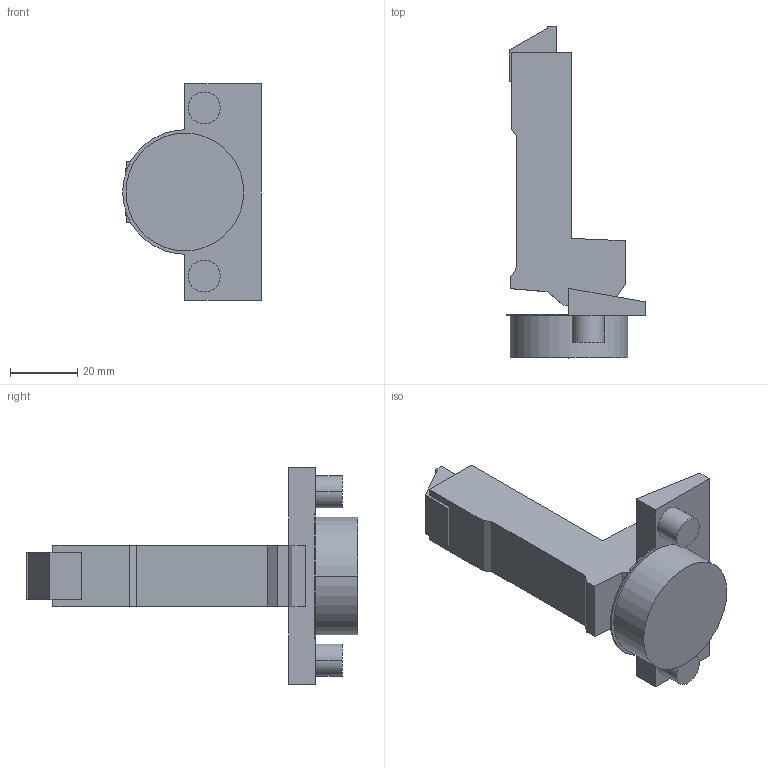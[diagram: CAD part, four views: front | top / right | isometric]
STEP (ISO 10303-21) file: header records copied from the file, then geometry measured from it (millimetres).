
FILE_DESCRIPTION (( 'STEP AP214' ), '1' );
FILE_NAME ('Scharnier TT Impresso 120° HS_BB, K19.step', '2010-12-06T09:57:57', ( 'grass' ), ( '' ), 'SwSTEP 2.0', 'SolidWorks 2010', '' );
FILE_SCHEMA (( 'AUTOMOTIVE_DESIGN' ));
Length unit declared in the file: millimetre
Products named in the file (1): Scharnier TT Impresso 120° HS_BB, K19
Bounding box: 41.25 x 98.7 x 64.5 mm (x, y, z)
Volume: 49895 mm3; surface area: 13639.6 mm2
Topology: 1 solids, 3 shells, 61 faces, 147 edges, 98 vertices
Faces by surface type: plane 43, cylinder 18
Entity records: 1807 total; most frequent: CARTESIAN_POINT 307, DIRECTION 307, ORIENTED_EDGE 294, EDGE_CURVE 147, VECTOR 111, LINE 111, VERTEX_POINT 98, AXIS2_PLACEMENT_3D 98
